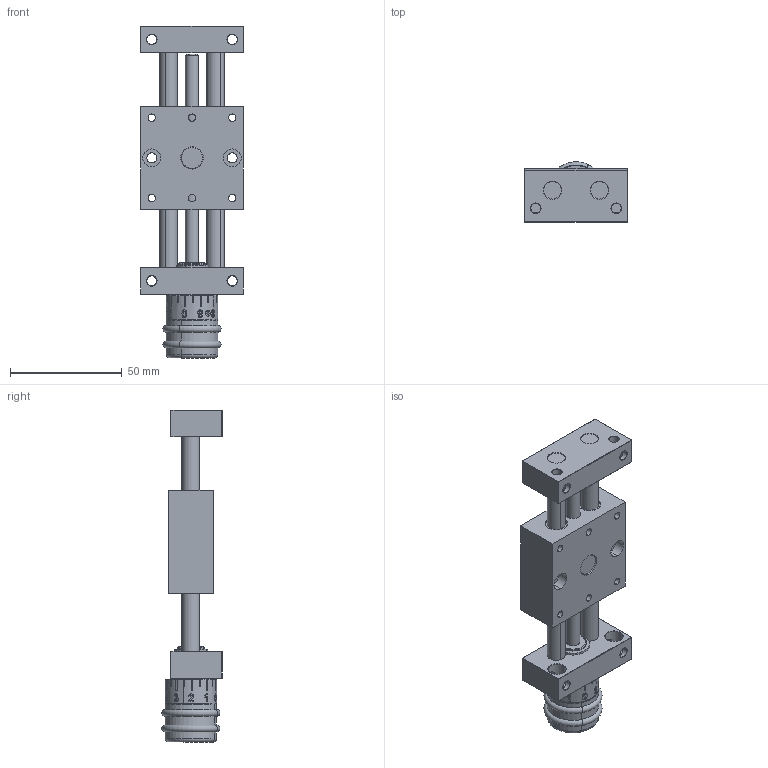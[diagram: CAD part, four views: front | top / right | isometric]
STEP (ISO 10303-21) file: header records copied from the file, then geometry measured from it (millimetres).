
FILE_DESCRIPTION (( 'STEP AP203' ), '1' );
FILE_NAME ('PT4808-SK-Positioniertisch.STEP', '2016-01-15T17:20:10', ( '' ), ( '' ), 'SwSTEP 2.0', 'SolidWorks 2014', '' );
FILE_SCHEMA (( 'CONFIG_CONTROL_DESIGN' ));
Length unit declared in the file: millimetre
Products named in the file (3): PT4808-000-01-Festteil-SK_n_Standard; PT08-000-02-Schlitten-komplett_n_Standard; PT4808-SK-Positioniertisch
Assembly tree (2 placements, depth 2):
  PT4808-SK-Positioniertisch
    PT4808-000-01-Festteil-SK_n_Standard
    PT08-000-02-Schlitten-komplett_n_Standard
Bounding box: 46 x 26.98 x 148.49 mm (x, y, z)
Volume: 77588.8 mm3; surface area: 35115.3 mm2
Topology: 2 solids, 5 shells, 665 faces, 1661 edges, 1056 vertices
Faces by surface type: plane 242, cylinder 178, cone 121, bspline 102, torus 20, sphere 2
Entity records: 35284 total; most frequent: CARTESIAN_POINT 19642, ORIENTED_EDGE 3310, DIRECTION 2964, EDGE_CURVE 1655, AXIS2_PLACEMENT_3D 1163, VERTEX_POINT 1056, EDGE_LOOP 785, FACE_OUTER_BOUND 665
